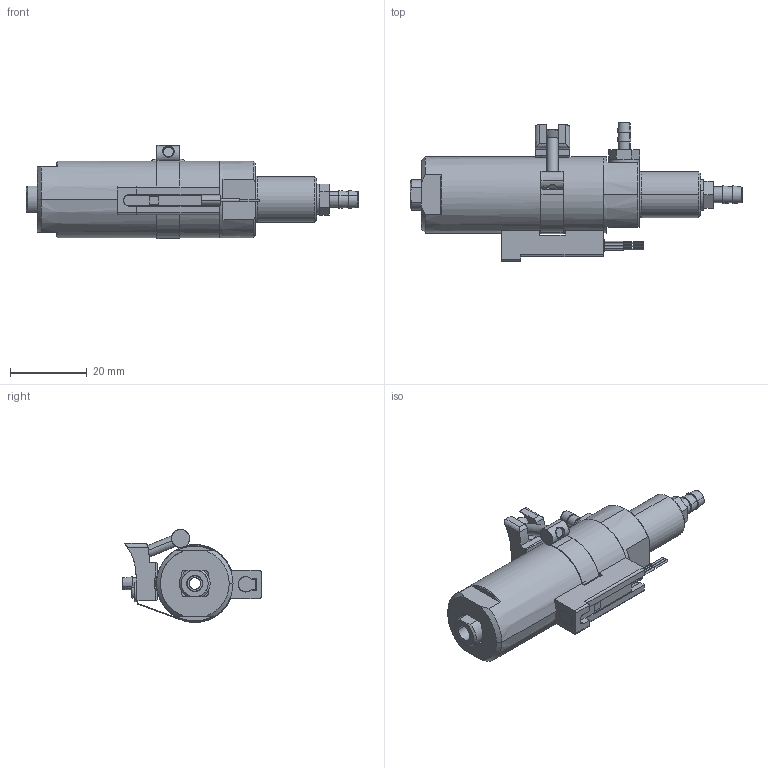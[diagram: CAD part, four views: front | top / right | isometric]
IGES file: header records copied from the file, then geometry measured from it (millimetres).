
Start section: SolidWorks IGES file using analytic representation for surfaces
Global section: file name: \\172.16.1.143\star共有\030eins事業部\開発→業務\Web用3Dデータ_21.03.12\VMCP-10-C.IGS,15HSolidWorks; native system: 2018; preprocessor: SolidWorks 2018; author: STAR064C; date: 210312.162026; units: millimetre
Bounding box: 86.8 x 36.15 x 24.33 mm (x, y, z)
Surface area: 9320.1 mm2 (no closed solid volume)
Topology: 0 solids, 0 shells, 249 faces, 3341 edges, 3340 vertices
Faces by surface type: bspline 130, revolution 119
